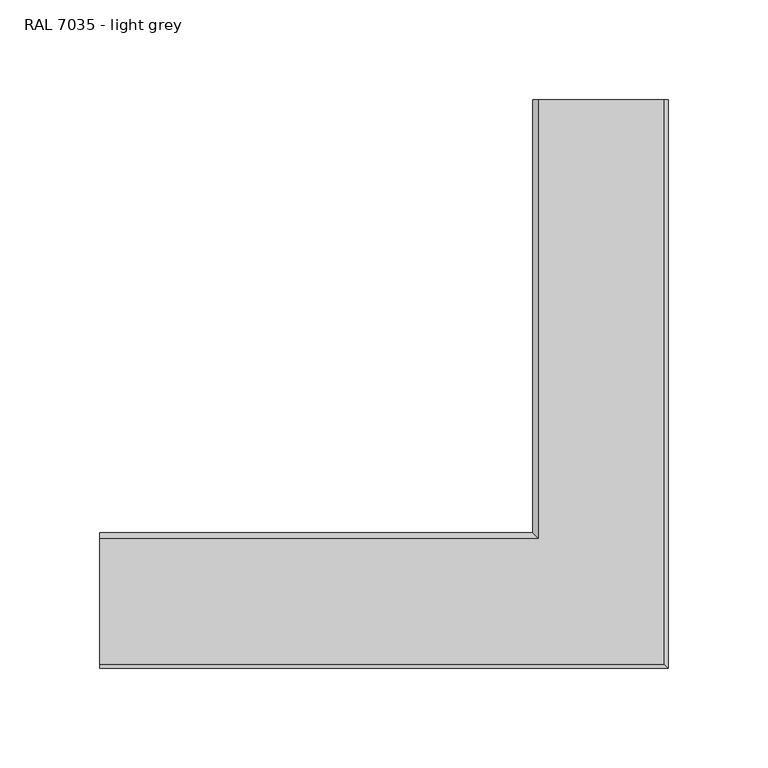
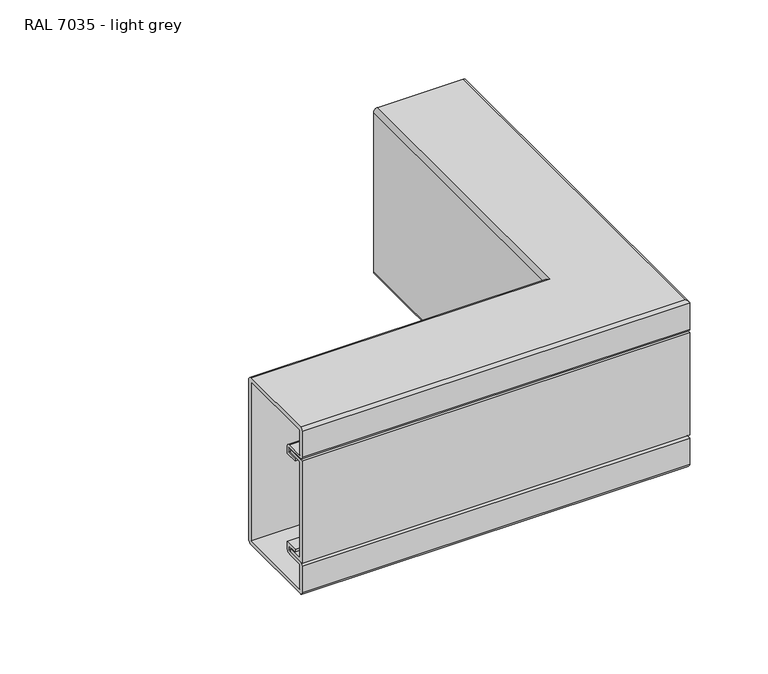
"""IFC4 building model written with IfcOpenShell, lengths in millimetres: cable carrier fitting geometry, Electrical_Installations_Hager_BRP-Horizontal-External-Corner-One-Compartment : RAL 7035 - light grey."""

from ifc_helpers import new_model, si_unit, frame, origin, place, context, project, spatial, polyline, circle_curve, ellipse_curve, source, transform, mapped, element, save
from ifc_brep_helpers import plane_surface, cylinder_surface, revolved_surface, advanced_brep


def ral_7035_light_grey_0801126e(model_context):
    return source(origin(), model_context, "Body", "AdvancedBrep", [
        advanced_brep(
        [(32.5, 250.0, 62.0), (-29.5, 250.0, 62.0), (-29.5, 250.0, -62.0), (32.5, 250.0, -62.0), (32.5, 250.0, -42.4755159), (19.5, 250.0, -42.4755159), (16.5, 250.0, -39.4755159), (16.5, 250.0, -34.3585286), (26.5, 250.0, -34.3585286), (26.5, 250.0, -36.4755159), (18.5, 250.0, -36.4755159), (18.5, 250.0, -39.4755159), (19.5, 250.0, -40.4755159), (33.4722563, 250.0, -40.4755159), (35.5, 250.0, -42.5032596), (35.5, 250.0, -63.0), (33.5, 250.0, -65.0), (-29.5, 250.0, -65.0), (-32.5, 250.0, -62.0), (-32.5, 250.0, 62.0), (-29.5, 250.0, 65.0), (33.4796809, 250.0, 65.0), (35.5, 250.0, 62.9796809), (35.5, 250.0, 42.5032596), (33.4722563, 250.0, 40.4755159), (19.5, 250.0, 40.4755159), (18.5, 250.0, 39.4755159), (18.5, 250.0, 36.4755159), (26.5, 250.0, 36.4755159), (26.5, 250.0, 34.3585286), (16.5, 250.0, 34.3585286), (16.5, 250.0, 39.4755159), (19.5, 250.0, 42.4755159), (32.5, 250.0, 42.4755159), (32.5, -32.5, 42.4755159), (32.5, -32.5, 62.0), (19.5, -19.5, 42.4755159), (-250.0, -19.5, 42.4755159), (-250.0, -32.5, 42.4755159), (16.5, -16.5, 39.4755159), (16.5, -16.5, 34.3585286), (18.5, -18.5, 36.4755159), (-250.0, -18.5, 36.4755159), (-250.0, -26.5, 36.4755159), (26.5, -26.5, 36.4755159), (18.5, -18.5, 39.4755159), (19.5, -19.5, 40.4755159), (33.4722563, -33.4722563, 40.4755159), (-250.0, -33.4722563, 40.4755159), (-250.0, -19.5, 40.4755159), (35.5, -35.5, 42.5032596), (35.5, -35.5, 62.9796809), (33.4796809, -33.4796809, 65.0), (-29.5, 29.5, 65.0), (-250.0, 29.5, 65.0), (-250.0, -33.4796809, 65.0), (-32.5, 32.5, 62.0), (-32.5, 32.5, -62.0), (-29.5, 29.5, -65.0), (33.5, -33.5, -65.0), (-250.0, -33.5, -65.0), (-250.0, 29.5, -65.0), (35.5, -35.5, -63.0), (35.5, -35.5, -42.5032596), (32.5, -32.5, -62.0), (32.5, -32.5, -42.4755159), (-29.5, 29.5, -62.0), (-250.0, 29.5, -62.0), (-250.0, -32.5, -62.0), (-29.5, 29.5, 62.0), (-250.0, -32.5, 62.0), (-250.0, 29.5, 62.0), (-250.0, -16.5, 39.4755159), (-250.0, -16.5, 34.3585286), (-250.0, -26.5, 34.3585286), (-250.0, -18.5, 39.4755159), (-250.0, -35.5, 42.5032596), (-250.0, -35.5, 62.9796809), (-250.0, 32.5, 62.0), (-250.0, 32.5, -62.0), (-250.0, -35.5, -63.0), (-250.0, -35.5, -42.5032596), (-250.0, -33.4722563, -40.4755159), (-250.0, -19.5, -40.4755159), (-250.0, -18.5, -39.4755159), (-250.0, -18.5, -36.4755159), (-250.0, -26.5, -36.4755159), (-250.0, -26.5, -34.3585286), (-250.0, -16.5, -34.3585286), (-250.0, -16.5, -39.4755159), (-250.0, -19.5, -42.4755159), (-250.0, -32.5, -42.4755159), (19.5, -19.5, -42.4755159), (16.5, -16.5, -39.4755159), (16.5, -16.5, -34.3585286), (26.5, -26.5, -34.3585286), (26.5, -26.5, -36.4755159), (18.5, -18.5, -36.4755159), (18.5, -18.5, -39.4755159), (19.5, -19.5, -40.4755159), (33.4722563, -33.4722563, -40.4755159), (26.5, -26.5, 34.3585286)],
        [
            (0, 1),
            (1, 2),
            (2, 3),
            (3, 4),
            (4, 5),
            (5, 6, circle_curve(frame((19.5, 250.0, -39.4755159), z_axis=(0.0, 1.0, 0.0), x_axis=(1.0, 0.0, 0.0)), 3.0)),
            (6, 7),
            (7, 8),
            (8, 9),
            (9, 10),
            (10, 11),
            (11, 12, circle_curve(frame((19.5, 250.0, -39.4755159), z_axis=(0.0, -1.0, 0.0), x_axis=(1.0, 0.0, 0.0)), 1.0)),
            (12, 13),
            (13, 14, circle_curve(frame((33.4722563, 250.0, -42.5032596), z_axis=(0.0, 1.0, 0.0), x_axis=(1.0, 0.0, 0.0)), 2.0277437)),
            (14, 15),
            (15, 16, circle_curve(frame((33.5, 250.0, -63.0), z_axis=(0.0, 1.0, 0.0), x_axis=(1.0, 0.0, 0.0)), 2.0)),
            (16, 17),
            (17, 18, circle_curve(frame((-29.5, 250.0, -62.0), z_axis=(0.0, 1.0, 0.0), x_axis=(1.0, 0.0, 0.0)), 3.0)),
            (18, 19),
            (19, 20, circle_curve(frame((-29.5, 250.0, 62.0), z_axis=(0.0, 1.0, 0.0), x_axis=(1.0, 0.0, 0.0)), 3.0)),
            (20, 21),
            (21, 22, circle_curve(frame((33.4796809, 250.0, 62.9796809), z_axis=(0.0, 1.0, 0.0), x_axis=(1.0, 0.0, 0.0)), 2.0203191)),
            (22, 23),
            (23, 24, circle_curve(frame((33.4722563, 250.0, 42.5032596), z_axis=(0.0, 1.0, 0.0), x_axis=(1.0, 0.0, 0.0)), 2.0277437)),
            (24, 25),
            (25, 26, circle_curve(frame((19.5, 250.0, 39.4755159), z_axis=(0.0, -1.0, 0.0), x_axis=(1.0, 0.0, 0.0)), 1.0)),
            (26, 27),
            (27, 28),
            (28, 29),
            (29, 30),
            (30, 31),
            (31, 32, circle_curve(frame((19.5, 250.0, 39.4755159), z_axis=(0.0, 1.0, 0.0), x_axis=(1.0, 0.0, 0.0)), 3.0)),
            (32, 33),
            (33, 0),
            (33, 34),
            (34, 35),
            (35, 0),
            (32, 36),
            (36, 37),
            (37, 38),
            (38, 34),
            (31, 39),
            (39, 36, ellipse_curve(frame((19.5, -19.5, 39.4755159), z_axis=(0.707106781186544, 0.707106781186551, 0.0), x_axis=(-0.707106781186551, 0.707106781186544, 0.0)), 4.2426407, 3.0)),
            (30, 40),
            (40, 39),
            (27, 41),
            (41, 42),
            (42, 43),
            (43, 44),
            (44, 28),
            (26, 45),
            (45, 41),
            (25, 46),
            (46, 45, ellipse_curve(frame((19.5, -19.5, 39.4755159), z_axis=(-0.707106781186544, -0.707106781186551, 0.0), x_axis=(0.707106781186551, -0.707106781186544, 0.0)), 1.4142136, 1.0)),
            (24, 47),
            (47, 48),
            (48, 49),
            (49, 46),
            (23, 50),
            (50, 47, ellipse_curve(frame((33.4722563, -33.4722563, 42.5032596), z_axis=(0.707106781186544, 0.707106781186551, 0.0), x_axis=(-0.707106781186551, 0.707106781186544, 0.0)), 2.8676627, 2.0277437)),
            (22, 51),
            (51, 50),
            (21, 52),
            (52, 51, ellipse_curve(frame((33.4796809, -33.4796809, 62.9796809), z_axis=(0.707106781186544, 0.707106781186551, 0.0), x_axis=(-0.707106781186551, 0.707106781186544, 0.0)), 2.8571627, 2.0203191)),
            (20, 53),
            (53, 54),
            (54, 55),
            (55, 52),
            (19, 56),
            (56, 53, ellipse_curve(frame((-29.5, 29.5, 62.0), z_axis=(0.707106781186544, 0.707106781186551, 0.0), x_axis=(-0.707106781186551, 0.707106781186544, 0.0)), 4.2426407, 3.0)),
            (18, 57),
            (57, 56),
            (17, 58),
            (58, 57, ellipse_curve(frame((-29.5, 29.5, -62.0), z_axis=(0.707106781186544, 0.707106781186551, 0.0), x_axis=(-0.707106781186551, 0.707106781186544, 0.0)), 4.2426407, 3.0)),
            (16, 59),
            (59, 60),
            (60, 61),
            (61, 58),
            (15, 62),
            (62, 59, ellipse_curve(frame((33.5, -33.5, -63.0), z_axis=(0.707106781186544, 0.707106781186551, 0.0), x_axis=(-0.707106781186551, 0.707106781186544, 0.0)), 2.8284271, 2.0)),
            (14, 63),
            (63, 62),
            (3, 64),
            (64, 65),
            (65, 4),
            (2, 66),
            (66, 67),
            (67, 68),
            (68, 64),
            (1, 69),
            (69, 66),
            (35, 70),
            (70, 71),
            (71, 69),
            (70, 38),
            (37, 72, circle_curve(frame((-250.0, -19.5, 39.4755159), z_axis=(-1.0, 0.0, 0.0), x_axis=(0.0, -1.0, 0.0)), 3.0)),
            (72, 73),
            (73, 74),
            (74, 43),
            (42, 75),
            (75, 49, circle_curve(frame((-250.0, -19.5, 39.4755159), z_axis=(1.0, 0.0, 0.0), x_axis=(0.0, -1.0, 0.0)), 1.0)),
            (48, 76, circle_curve(frame((-250.0, -33.4722563, 42.5032596), z_axis=(-1.0, 0.0, 0.0), x_axis=(0.0, -1.0, 0.0)), 2.0277437)),
            (76, 77),
            (77, 55, circle_curve(frame((-250.0, -33.4796809, 62.9796809), z_axis=(-1.0, 0.0, 0.0), x_axis=(0.0, -1.0, 0.0)), 2.0203191)),
            (54, 78, circle_curve(frame((-250.0, 29.5, 62.0), z_axis=(-1.0, 0.0, 0.0), x_axis=(0.0, -1.0, 0.0)), 3.0)),
            (78, 79),
            (79, 61, circle_curve(frame((-250.0, 29.5, -62.0), z_axis=(-1.0, 0.0, 0.0), x_axis=(0.0, -1.0, 0.0)), 3.0)),
            (60, 80, circle_curve(frame((-250.0, -33.5, -63.0), z_axis=(-1.0, 0.0, 0.0), x_axis=(0.0, -1.0, 0.0)), 2.0)),
            (80, 81),
            (81, 82, circle_curve(frame((-250.0, -33.4722563, -42.5032596), z_axis=(-1.0, 0.0, 0.0), x_axis=(0.0, -1.0, 0.0)), 2.0277437)),
            (82, 83),
            (83, 84, circle_curve(frame((-250.0, -19.5, -39.4755159), z_axis=(1.0, 0.0, 0.0), x_axis=(0.0, -1.0, 0.0)), 1.0)),
            (84, 85),
            (85, 86),
            (86, 87),
            (87, 88),
            (88, 89),
            (89, 90, circle_curve(frame((-250.0, -19.5, -39.4755159), z_axis=(-1.0, 0.0, 0.0), x_axis=(0.0, -1.0, 0.0)), 3.0)),
            (90, 91),
            (91, 68),
            (67, 71),
            (39, 72),
            (40, 73),
            (45, 75),
            (50, 76),
            (51, 77),
            (56, 78),
            (57, 79),
            (62, 80),
            (63, 81),
            (91, 65),
            (90, 92),
            (92, 5),
            (92, 93, ellipse_curve(frame((19.5, -19.5, -39.4755159), z_axis=(0.707106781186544, 0.707106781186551, 0.0), x_axis=(-0.707106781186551, 0.707106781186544, 0.0)), 4.2426407, 3.0)),
            (93, 6),
            (93, 94),
            (94, 7),
            (94, 88),
            (87, 95),
            (95, 8),
            (95, 96),
            (96, 9),
            (96, 86),
            (85, 97),
            (97, 10),
            (97, 98),
            (98, 11),
            (98, 99, ellipse_curve(frame((19.5, -19.5, -39.4755159), z_axis=(-0.707106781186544, -0.707106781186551, 0.0), x_axis=(0.707106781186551, -0.707106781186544, 0.0)), 1.4142136, 1.0)),
            (99, 12),
            (99, 83),
            (82, 100),
            (100, 13),
            (100, 63, ellipse_curve(frame((33.4722563, -33.4722563, -42.5032596), z_axis=(0.707106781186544, 0.707106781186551, 0.0), x_axis=(-0.707106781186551, 0.707106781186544, 0.0)), 2.8676627, 2.0277437)),
            (44, 101),
            (101, 29),
            (101, 74),
            (89, 93),
            (84, 98),
        ],
        [
            plane_surface(frame((0.0, 250.0, 0.0), z_axis=(0.0, 1.0, 0.0), x_axis=(0.0, 0.0, 1.0))),
            plane_surface(frame((32.5, 250.0, 42.4755159), z_axis=(-1.0, 0.0, 0.0), x_axis=(0.0, -1.0, 0.0))),
            plane_surface(frame((19.5, 250.0, 42.4755159), z_axis=(0.0, 0.0, 1.0), x_axis=(0.0, -1.0, 0.0))),
            cylinder_surface(frame((19.5, 250.0, 39.4755159), z_axis=(0.0, 1.0, 0.0), x_axis=(1.0, 0.0, 0.0)), 3.0),
            plane_surface(frame((16.5, 250.0, 34.3585286), z_axis=(-1.0, 0.0, 0.0), x_axis=(0.0, -1.0, 0.0))),
            plane_surface(frame((18.5, 250.0, 36.4755159), z_axis=(0.0, 0.0, 1.0), x_axis=(0.0, -1.0, 0.0))),
            plane_surface(frame((18.5, 250.0, 39.4755159), z_axis=(1.0, 0.0, 0.0), x_axis=(0.0, -1.0, 0.0))),
            revolved_surface(polyline([(20.5, -20.500000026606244, 39.4755159), (20.5, 250.0, 39.4755159)]), (19.5, 250.0, 39.4755159), (0.0, -1.0, 0.0)),
            plane_surface(frame((33.4722563, 250.0, 40.4755159), z_axis=(0.0, 0.0, -1.0), x_axis=(0.0, -1.0, 0.0))),
            cylinder_surface(frame((33.4722563, 250.0, 42.5032596), z_axis=(0.0, 1.0, 0.0), x_axis=(1.0, 0.0, 0.0)), 2.0277437),
            plane_surface(frame((35.5, 250.0, 62.9796809), z_axis=(1.0, 0.0, 0.0), x_axis=(0.0, -1.0, 0.0))),
            cylinder_surface(frame((33.4796809, 250.0, 62.9796809), z_axis=(0.0, 1.0, 0.0), x_axis=(1.0, 0.0, 0.0)), 2.0203191),
            plane_surface(frame((-29.5, 250.0, 65.0), z_axis=(0.0, 0.0, 1.0), x_axis=(0.0, -1.0, 0.0))),
            cylinder_surface(frame((-29.5, 250.0, 62.0), z_axis=(0.0, 1.0, 0.0), x_axis=(1.0, 0.0, 0.0)), 3.0),
            plane_surface(frame((-32.5, 250.0, -62.0), z_axis=(-1.0, 0.0, 0.0), x_axis=(0.0, -1.0, 0.0))),
            cylinder_surface(frame((-29.5, 250.0, -62.0), z_axis=(0.0, 1.0, 0.0), x_axis=(1.0, 0.0, 0.0)), 3.0),
            plane_surface(frame((33.5, 250.0, -65.0), z_axis=(0.0, 0.0, -1.0), x_axis=(0.0, -1.0, 0.0))),
            cylinder_surface(frame((33.5, 250.0, -63.0), z_axis=(0.0, 1.0, 0.0), x_axis=(1.0, 0.0, 0.0)), 2.0),
            plane_surface(frame((35.5, 250.0, -42.5032596), z_axis=(1.0, 0.0, 0.0), x_axis=(0.0, -1.0, 0.0))),
            plane_surface(frame((32.5, 250.0, -62.0), z_axis=(-1.0, 0.0, 0.0), x_axis=(0.0, -1.0, 0.0))),
            plane_surface(frame((-29.5, 250.0, -62.0), z_axis=(0.0, 0.0, 1.0), x_axis=(0.0, -1.0, 0.0))),
            plane_surface(frame((-29.5, 250.0, 7.4649365), z_axis=(1.0, 0.0, 0.0), x_axis=(0.0, -1.0, 0.0))),
            plane_surface(frame((32.5, 250.0, 62.0), z_axis=(0.0, 0.0, -1.0), x_axis=(0.0, -1.0, 0.0))),
            plane_surface(frame((-250.0, 0.0, 0.0), z_axis=(-1.0, 0.0, 0.0), x_axis=(0.0, 0.0, 1.0))),
            plane_surface(frame((32.5, -32.5, 42.4755159), z_axis=(0.0, 1.0, 0.0), x_axis=(-1.0, 0.0, 0.0))),
            cylinder_surface(frame((0.0, -19.5, 39.4755159), z_axis=(1.0, 0.0, 0.0), x_axis=(0.0, -1.0, 0.0)), 3.0),
            plane_surface(frame((16.5, -16.5, 34.3585286), z_axis=(0.0, 1.0, 0.0), x_axis=(-1.0, 0.0, 0.0))),
            plane_surface(frame((18.5, -18.5, 39.4755159), z_axis=(0.0, -1.0, 0.0), x_axis=(-1.0, 0.0, 0.0))),
            revolved_surface(polyline([(-250.0, -20.5, 39.4755159), (20.500000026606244, -20.5, 39.4755159)]), (0.0, -19.5, 39.4755159), (-1.0, 0.0, 0.0)),
            cylinder_surface(frame((0.0, -33.4722563, 42.5032596), z_axis=(1.0, 0.0, 0.0), x_axis=(0.0, -1.0, 0.0)), 2.0277437),
            plane_surface(frame((35.5, -35.5, 62.9796809), z_axis=(0.0, -1.0, 0.0), x_axis=(-1.0, 0.0, 0.0))),
            cylinder_surface(frame((0.0, -33.4796809, 62.9796809), z_axis=(1.0, 0.0, 0.0), x_axis=(0.0, -1.0, 0.0)), 2.0203191),
            cylinder_surface(frame((0.0, 29.5, 62.0), z_axis=(1.0, 0.0, 0.0), x_axis=(0.0, -1.0, 0.0)), 3.0),
            plane_surface(frame((-32.5, 32.5, -62.0), z_axis=(0.0, 1.0, 0.0), x_axis=(-1.0, 0.0, 0.0))),
            cylinder_surface(frame((0.0, 29.5, -62.0), z_axis=(1.0, 0.0, 0.0), x_axis=(0.0, -1.0, 0.0)), 3.0),
            cylinder_surface(frame((0.0, -33.5, -63.0), z_axis=(1.0, 0.0, 0.0), x_axis=(0.0, -1.0, 0.0)), 2.0),
            plane_surface(frame((35.5, -35.5, -42.5032596), z_axis=(0.0, -1.0, 0.0), x_axis=(-1.0, 0.0, 0.0))),
            plane_surface(frame((32.5, -32.5, -62.0), z_axis=(0.0, 1.0, 0.0), x_axis=(-1.0, 0.0, 0.0))),
            plane_surface(frame((-29.5, 29.5, 7.4649365), z_axis=(0.0, -1.0, 0.0), x_axis=(-1.0, 0.0, 0.0))),
            plane_surface(frame((32.5, 250.0, -42.4755159), z_axis=(0.0, 0.0, -1.0), x_axis=(0.0, -1.0, 0.0))),
            cylinder_surface(frame((19.5, 250.0, -39.4755159), z_axis=(0.0, 1.0, 0.0), x_axis=(1.0, 0.0, 0.0)), 3.0),
            plane_surface(frame((16.5, 250.0, -39.4755159), z_axis=(-1.0, 0.0, 0.0), x_axis=(0.0, -1.0, 0.0))),
            plane_surface(frame((16.5, 250.0, -34.3585286), z_axis=(0.0, 0.0, 1.0), x_axis=(0.0, -1.0, 0.0))),
            plane_surface(frame((26.5, 250.0, -34.3585286), z_axis=(1.0, 0.0, 0.0), x_axis=(0.0, -1.0, 0.0))),
            plane_surface(frame((26.5, 250.0, -36.4755159), z_axis=(0.0, 0.0, -1.0), x_axis=(0.0, -1.0, 0.0))),
            plane_surface(frame((18.5, 250.0, -36.4755159), z_axis=(1.0, 0.0, 0.0), x_axis=(0.0, -1.0, 0.0))),
            revolved_surface(polyline([(20.5, -20.500000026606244, -39.4755159), (20.5, 250.0, -39.4755159)]), (19.5, 250.0, -39.4755159), (0.0, -1.0, 0.0)),
            plane_surface(frame((19.5, 250.0, -40.4755159), z_axis=(0.0, 0.0, 1.0), x_axis=(0.0, -1.0, 0.0))),
            cylinder_surface(frame((33.4722563, 250.0, -42.5032596), z_axis=(0.0, 1.0, 0.0), x_axis=(1.0, 0.0, 0.0)), 2.0277437),
            plane_surface(frame((26.5, 250.0, 36.4755159), z_axis=(1.0, 0.0, 0.0), x_axis=(0.0, -1.0, 0.0))),
            plane_surface(frame((26.5, 250.0, 34.3585286), z_axis=(0.0, 0.0, -1.0), x_axis=(0.0, -1.0, 0.0))),
            cylinder_surface(frame((0.0, -19.5, -39.4755159), z_axis=(1.0, 0.0, 0.0), x_axis=(0.0, -1.0, 0.0)), 3.0),
            plane_surface(frame((16.5, -16.5, -39.4755159), z_axis=(0.0, 1.0, 0.0), x_axis=(-1.0, 0.0, 0.0))),
            plane_surface(frame((26.5, -26.5, -34.3585286), z_axis=(0.0, -1.0, 0.0), x_axis=(-1.0, 0.0, 0.0))),
            plane_surface(frame((18.5, -18.5, -36.4755159), z_axis=(0.0, -1.0, 0.0), x_axis=(-1.0, 0.0, 0.0))),
            revolved_surface(polyline([(-250.0, -20.5, -39.4755159), (20.500000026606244, -20.5, -39.4755159)]), (0.0, -19.5, -39.4755159), (-1.0, 0.0, 0.0)),
            cylinder_surface(frame((0.0, -33.4722563, -42.5032596), z_axis=(1.0, 0.0, 0.0), x_axis=(0.0, -1.0, 0.0)), 2.0277437),
            plane_surface(frame((26.5, -26.5, 36.4755159), z_axis=(0.0, -1.0, 0.0), x_axis=(-1.0, 0.0, 0.0))),
        ],
        [
            (0, [[1, 2, 3, 4, 5, 6, 7, 8, 9, 10, 11, 12, 13, 14, 15, 16, 17, 18, 19, 20, 21, 22, 23, 24, 25, 26, 27, 28, 29, 30, 31, 32, 33, 34]]),
            (1, [[-34, 35, 36, 37]]),
            (2, [[-33, 38, 39, 40, 41, -35]]),
            (3, [[-32, 42, 43, -38]]),
            (4, [[-31, 44, 45, -42]]),
            (5, [[-28, 46, 47, 48, 49, 50]]),
            (6, [[-27, 51, 52, -46]]),
            (7, [[-26, 53, 54, -51]]),
            (8, [[-25, 55, 56, 57, 58, -53]]),
            (9, [[-24, 59, 60, -55]]),
            (10, [[-23, 61, 62, -59]]),
            (11, [[-22, 63, 64, -61]]),
            (12, [[-21, 65, 66, 67, 68, -63]]),
            (13, [[-20, 69, 70, -65]]),
            (14, [[-19, 71, 72, -69]]),
            (15, [[-18, 73, 74, -71]]),
            (16, [[-17, 75, 76, 77, 78, -73]]),
            (17, [[-16, 79, 80, -75]]),
            (18, [[-15, 81, 82, -79]]),
            (19, [[-4, 83, 84, 85]]),
            (20, [[-3, 86, 87, 88, 89, -83]]),
            (21, [[90, 91, -86, -2]]),
            (22, [[-1, -37, 92, 93, 94, -90]]),
            (23, [[95, -40, 96, 97, 98, 99, -48, 100, 101, -57, 102, 103, 104, -67, 105, 106, 107, -77, 108, 109, 110, 111, 112, 113, 114, 115, 116, 117, 118, 119, 120, -88, 121, -93]]),
            (24, [[-36, -41, -95, -92]]),
            (25, [[-43, 122, -96, -39]]),
            (26, [[-45, 123, -97, -122]]),
            (27, [[-52, 124, -100, -47]]),
            (28, [[-54, -58, -101, -124]]),
            (29, [[-60, 125, -102, -56]]),
            (30, [[-62, 126, -103, -125]]),
            (31, [[-64, -68, -104, -126]]),
            (32, [[-70, 127, -105, -66]]),
            (33, [[-72, 128, -106, -127]]),
            (34, [[-74, -78, -107, -128]]),
            (35, [[-80, 129, -108, -76]]),
            (36, [[-82, 130, -109, -129]]),
            (37, [[-84, -89, -120, 131]]),
            (38, [[-91, -94, -121, -87]]),
            (39, [[-5, -85, -131, -119, 132, 133]]),
            (40, [[-6, -133, 134, 135]]),
            (41, [[-7, -135, 136, 137]]),
            (42, [[-8, -137, 138, -116, 139, 140]]),
            (43, [[-9, -140, 141, 142]]),
            (44, [[-10, -142, 143, -114, 144, 145]]),
            (45, [[-11, -145, 146, 147]]),
            (46, [[-12, -147, 148, 149]]),
            (47, [[-13, -149, 150, -111, 151, 152]]),
            (48, [[-14, -152, 153, -81]]),
            (49, [[-29, -50, 154, 155]]),
            (50, [[-30, -155, 156, -98, -123, -44]]),
            (51, [[-134, -132, -118, 157]]),
            (52, [[-136, -157, -117, -138]]),
            (53, [[-141, -139, -115, -143]]),
            (54, [[-146, -144, -113, 158]]),
            (55, [[-148, -158, -112, -150]]),
            (56, [[-153, -151, -110, -130]]),
            (57, [[-154, -49, -99, -156]]),
        ],
    ),
        advanced_brep(
        [(32.46875, 250.0, -36.858251), (32.46875, 250.0, 36.858251), (31.7770737, 250.0, 37.5499273), (21.06875, 250.0, 37.5499273), (21.06875, 250.0, 40.0137775), (35.46875, 250.0, 40.0137775), (35.46875, 250.0, -40.0137775), (21.06875, 250.0, -40.0137775), (21.06875, 250.0, -37.5499273), (31.7770737, 250.0, -37.5499273), (32.46875, -32.46875, -36.858251), (32.46875, -32.46875, 36.858251), (21.06875, -21.06875, 40.0137775), (-250.0, -21.06875, 40.0137775), (-250.0, -35.46875, 40.0137775), (35.46875, -35.46875, 40.0137775), (35.46875, -35.46875, -40.0137775), (-250.0, -35.46875, -40.0137775), (-250.0, -21.06875, -40.0137775), (21.06875, -21.06875, -40.0137775), (-250.0, -32.46875, -36.858251), (-250.0, -31.7770737, -37.5499273), (-250.0, -21.06875, -37.5499273), (-250.0, -21.06875, 37.5499273), (-250.0, -31.7770737, 37.5499273), (-250.0, -32.46875, 36.858251), (31.7770737, -31.7770737, 37.5499273), (21.06875, -21.06875, 37.5499273), (21.06875, -21.06875, -37.5499273), (31.7770737, -31.7770737, -37.5499273)],
        [
            (0, 1),
            (1, 2, circle_curve(frame((31.7770737, 250.0, 36.858251), z_axis=(0.0, -1.0, 0.0), x_axis=(0.0, 0.0, -1.0)), 0.6916763)),
            (2, 3),
            (3, 4),
            (4, 5),
            (5, 6),
            (6, 7),
            (7, 8),
            (8, 9),
            (9, 0, circle_curve(frame((31.7770737, 250.0, -36.858251), z_axis=(0.0, -1.0, 0.0), x_axis=(0.0, 0.0, -1.0)), 0.6916763)),
            (0, 10),
            (10, 11),
            (11, 1),
            (4, 12),
            (12, 13),
            (13, 14),
            (14, 15),
            (15, 5),
            (15, 16),
            (16, 6),
            (16, 17),
            (17, 18),
            (18, 19),
            (19, 7),
            (20, 21, circle_curve(frame((-250.0, -31.7770737, -36.858251), z_axis=(1.0, 0.0, 0.0), x_axis=(0.0, 0.0, -1.0)), 0.6916763)),
            (21, 22),
            (22, 18),
            (17, 14),
            (13, 23),
            (23, 24),
            (24, 25, circle_curve(frame((-250.0, -31.7770737, 36.858251), z_axis=(1.0, 0.0, 0.0), x_axis=(0.0, 0.0, -1.0)), 0.6916763)),
            (25, 20),
            (10, 20),
            (25, 11),
            (11, 26, ellipse_curve(frame((31.7770737, -31.7770737, 36.858251), z_axis=(-0.7071067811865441, -0.7071067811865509, 0.0), x_axis=(0.7071067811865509, -0.7071067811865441, 0.0)), 0.9781781, 0.6916763)),
            (26, 2),
            (26, 24),
            (23, 27),
            (27, 3),
            (27, 12),
            (19, 28),
            (28, 8),
            (28, 22),
            (21, 29),
            (29, 9),
            (29, 10, ellipse_curve(frame((31.7770737, -31.7770737, -36.858251), z_axis=(-0.7071067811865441, -0.7071067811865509, 0.0), x_axis=(0.7071067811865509, -0.7071067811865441, 0.0)), 0.9781781, 0.6916763)),
        ],
        [
            plane_surface(frame((32.5, 250.0, 42.4755159), z_axis=(0.0, 1.0, 0.0), x_axis=(0.0, 0.0, 1.0))),
            plane_surface(frame((32.46875, 250.0, -36.858251), z_axis=(-1.0, 0.0, 0.0), x_axis=(0.0, -1.0, 0.0))),
            plane_surface(frame((21.06875, 250.0, 40.0137775), z_axis=(0.0, 0.0, 1.0), x_axis=(0.0, -1.0, 0.0))),
            plane_surface(frame((35.46875, 250.0, 40.0137775), z_axis=(1.0, 0.0, 0.0), x_axis=(0.0, -1.0, 0.0))),
            plane_surface(frame((35.46875, 250.0, -40.0137775), z_axis=(0.0, 0.0, -1.0), x_axis=(0.0, -1.0, 0.0))),
            plane_surface(frame((-250.0, -32.5, 42.4755159), z_axis=(-1.0, 0.0, 0.0), x_axis=(0.0, 0.0, 1.0))),
            plane_surface(frame((32.46875, -32.46875, -36.858251), z_axis=(0.0, 1.0, 0.0), x_axis=(-1.0, 0.0, 0.0))),
            plane_surface(frame((35.46875, -35.46875, 40.0137775), z_axis=(0.0, -1.0, 0.0), x_axis=(-1.0, 0.0, 0.0))),
            revolved_surface(polyline([(31.7770737, -32.46875006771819, 36.166574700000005), (31.7770737, 250.0, 36.166574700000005)]), (31.7770737, 250.0, 36.858251), (0.0, -1.0, 0.0)),
            plane_surface(frame((31.7770737, 250.0, 37.5499273), z_axis=(0.0, 0.0, -1.0), x_axis=(0.0, -1.0, 0.0))),
            plane_surface(frame((21.06875, 250.0, 37.5499273), z_axis=(-1.0, 0.0, 0.0), x_axis=(0.0, -1.0, 0.0))),
            plane_surface(frame((21.06875, 250.0, -40.0137775), z_axis=(-1.0, 0.0, 0.0), x_axis=(0.0, -1.0, 0.0))),
            plane_surface(frame((21.06875, 250.0, -37.5499273), z_axis=(0.0, 0.0, 1.0), x_axis=(0.0, -1.0, 0.0))),
            revolved_surface(polyline([(31.7770737, -32.46875006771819, -37.5499273), (31.7770737, 250.0, -37.5499273)]), (31.7770737, 250.0, -36.858251), (0.0, -1.0, 0.0)),
            revolved_surface(polyline([(-250.0, -31.7770737, 36.166574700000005), (32.468750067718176, -31.7770737, 36.166574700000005)]), (32.5, -31.7770737, 36.858251), (-1.0, 0.0, 0.0)),
            plane_surface(frame((21.06875, -21.06875, 37.5499273), z_axis=(0.0, 1.0, 0.0), x_axis=(-1.0, 0.0, 0.0))),
            plane_surface(frame((21.06875, -21.06875, -40.0137775), z_axis=(0.0, 1.0, 0.0), x_axis=(-1.0, 0.0, 0.0))),
            revolved_surface(polyline([(-250.0, -31.7770737, -37.5499273), (32.468750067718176, -31.7770737, -37.5499273)]), (32.5, -31.7770737, -36.858251), (-1.0, 0.0, 0.0)),
        ],
        [
            (0, [[1, 2, 3, 4, 5, 6, 7, 8, 9, 10]]),
            (1, [[-1, 11, 12, 13]]),
            (2, [[-5, 14, 15, 16, 17, 18]]),
            (3, [[-6, -18, 19, 20]]),
            (4, [[-7, -20, 21, 22, 23, 24]]),
            (5, [[25, 26, 27, -22, 28, -16, 29, 30, 31, 32]]),
            (6, [[-12, 33, -32, 34]]),
            (7, [[-19, -17, -28, -21]]),
            (8, [[-2, -13, 35, 36]]),
            (9, [[-3, -36, 37, -30, 38, 39]]),
            (10, [[-4, -39, 40, -14]]),
            (11, [[-8, -24, 41, 42]]),
            (12, [[-9, -42, 43, -26, 44, 45]]),
            (13, [[-10, -45, 46, -11]]),
            (14, [[-35, -34, -31, -37]]),
            (15, [[-40, -38, -29, -15]]),
            (16, [[-41, -23, -27, -43]]),
            (17, [[-46, -44, -25, -33]]),
        ],
    ),
    ])


if __name__ == "__main__":
    model = new_model("IFC4")
    model_context = context("Model", 3, world=origin())
    ifc_project = project(units=[si_unit("LENGTHUNIT", "METRE", prefix="MILLI")], contexts=[model_context])
    site = spatial("IfcSite", under=ifc_project)
    building = spatial("IfcBuilding", under=site)
    placement = place(None, origin())
    ral_7035_light_grey_shape = ral_7035_light_grey_0801126e(model_context)
    element("IfcCableCarrierFitting", 1, ObjectType="Electrical_Installations_Hager_BRP-Horizontal-External-Corner-One-Compartment : RAL 7035 - light grey", at=placement, inside=building, context=model_context, shape_type="MappedRepresentation", body=[
        mapped(ral_7035_light_grey_shape, transform((0.0, 0.0, 0.0), x_axis=(1.0, 0.0, 0.0), y_axis=(0.0, 1.0, 0.0), z_axis=(0.0, 0.0, 1.0))),
    ])
    save(model, "model.ifc")
